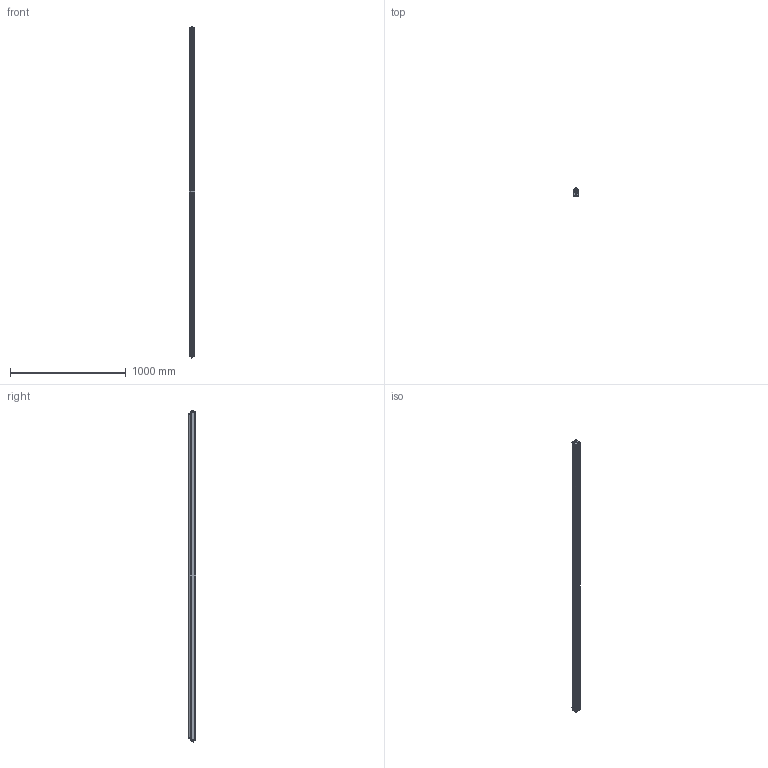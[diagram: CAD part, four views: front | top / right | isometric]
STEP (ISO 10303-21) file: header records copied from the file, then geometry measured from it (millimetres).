
FILE_DESCRIPTION (( 'STEP AP214' ), '1' );
FILE_NAME ('EFFI-FLEX2-2800-ZZZ-CYL-2M12P.STEP', '2026-06-18T10:18:30', ( '' ), ( '' ), 'SwSTEP 2.0', 'SolidWorks 2025', '' );
FILE_SCHEMA (( 'AUTOMOTIVE_DESIGN' ));
Length unit declared in the file: millimetre
Products named in the file (6): 017872-MODELE GENERIQUE AVEC LENTILLE_2800; 000605; 018941-MODELE GENERIQUE; 018302-MODELE GENERIQUE; 001113; EFFI-FLEX2-2800-ZZZ-CYL-2M12P
Assembly tree (13 placements, depth 2):
  EFFI-FLEX2-2800-ZZZ-CYL-2M12P
    017872-MODELE GENERIQUE AVEC LENTILLE_2800
    018302-MODELE GENERIQUE  x2
    000605  x6
    018941-MODELE GENERIQUE  x2
    001113  x2
Bounding box: 51.01 x 66.47 x 2868.96 mm (x, y, z)
Volume: 7335523.2 mm3; surface area: 1194937.9 mm2
Topology: 21 solids, 29 shells, 1236 faces, 3082 edges, 1958 vertices
Faces by surface type: plane 536, cylinder 316, cone 194, bspline 114, torus 60, sphere 16
Entity records: 22367 total; most frequent: CARTESIAN_POINT 6360, ORIENTED_EDGE 3316, DIRECTION 3271, EDGE_CURVE 1658, AXIS2_PLACEMENT_3D 1185, VERTEX_POINT 1075, VECTOR 901, LINE 901
